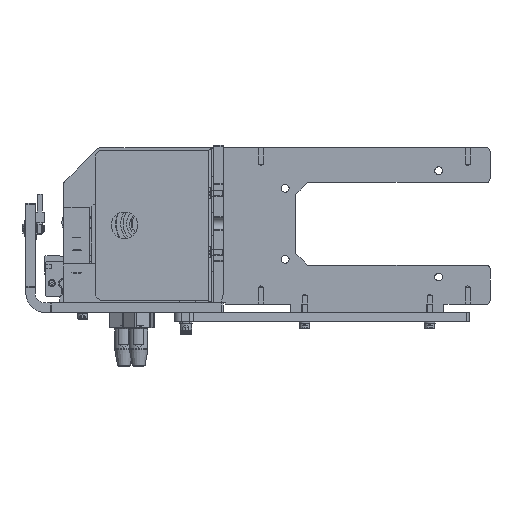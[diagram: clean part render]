
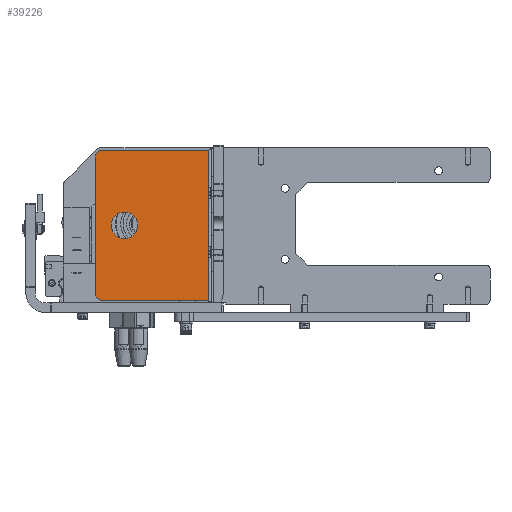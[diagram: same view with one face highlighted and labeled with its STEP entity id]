
A CAD part, left-side view. The second image highlights one B-rep face of the part: STEP entity #39226.
In plain terms, the highlighted planar face has unit normal (-1, 0, 0) as drawn and (1, 0, 0) by its records, which use the part's own axes.
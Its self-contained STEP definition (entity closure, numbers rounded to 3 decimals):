
#2920=CIRCLE('',#42482,6.);
#2921=CIRCLE('',#42484,6.);
#2922=CIRCLE('',#42485,11.25);
#3922=FACE_BOUND('',#10195,.T.);
#5025=PLANE('',#42483);
#7117=FACE_OUTER_BOUND('',#10194,.T.);
#10194=EDGE_LOOP('',(#34684,#34685,#34686,#34687,#34688,#34689));
#10195=EDGE_LOOP('',(#34690));
#13057=LINE('',#67625,#16253);
#13058=LINE('',#67629,#16254);
#13059=LINE('',#67631,#16255);
#13060=LINE('',#67632,#16256);
#16253=VECTOR('',#51409,115.5);
#16254=VECTOR('',#51412,90.);
#16255=VECTOR('',#51413,127.5);
#16256=VECTOR('',#51414,90.);
#20414=VERTEX_POINT('',#67618);
#20415=VERTEX_POINT('',#67620);
#20416=VERTEX_POINT('',#67624);
#20417=VERTEX_POINT('',#67626);
#20418=VERTEX_POINT('',#67628);
#20419=VERTEX_POINT('',#67630);
#20420=VERTEX_POINT('',#67633);
#25250=EDGE_CURVE('',#20414,#20415,#2920,.T.);
#25252=EDGE_CURVE('',#20414,#20416,#13057,.T.);
#25253=EDGE_CURVE('',#20417,#20416,#2921,.T.);
#25254=EDGE_CURVE('',#20418,#20417,#13058,.T.);
#25255=EDGE_CURVE('',#20418,#20419,#13059,.T.);
#25256=EDGE_CURVE('',#20419,#20415,#13060,.T.);
#25257=EDGE_CURVE('',#20420,#20420,#2922,.T.);
#34684=ORIENTED_EDGE('',*,*,#25250,.F.);
#34685=ORIENTED_EDGE('',*,*,#25252,.T.);
#34686=ORIENTED_EDGE('',*,*,#25253,.F.);
#34687=ORIENTED_EDGE('',*,*,#25254,.F.);
#34688=ORIENTED_EDGE('',*,*,#25255,.T.);
#34689=ORIENTED_EDGE('',*,*,#25256,.T.);
#34690=ORIENTED_EDGE('',*,*,#25257,.T.);
#39226=ADVANCED_FACE('',(#7117,#3922),#5025,.T.);
#42482=AXIS2_PLACEMENT_3D('',#67621,#51404,#51405);
#42483=AXIS2_PLACEMENT_3D('',#67623,#51407,#51408);
#42484=AXIS2_PLACEMENT_3D('',#67627,#51410,#51411);
#42485=AXIS2_PLACEMENT_3D('',#67634,#51415,#51416);
#51404=DIRECTION('center_axis',(-1.,0.,0.));
#51405=DIRECTION('ref_axis',(0.,-0.707,-0.707));
#51407=DIRECTION('center_axis',(1.,0.,0.));
#51408=DIRECTION('ref_axis',(0.,0.,-1.));
#51409=DIRECTION('',(0.,1.,0.));
#51410=DIRECTION('center_axis',(-1.,0.,0.));
#51411=DIRECTION('ref_axis',(0.,0.707,-0.707));
#51412=DIRECTION('',(0.,0.,-1.));
#51413=DIRECTION('',(0.,-1.,0.));
#51414=DIRECTION('',(0.,0.,-1.));
#51415=DIRECTION('center_axis',(-1.,0.,0.));
#51416=DIRECTION('ref_axis',(0.,0.,
-1.));
#67618=CARTESIAN_POINT('',(-1.,9.,-100.));
#67620=CARTESIAN_POINT('',(-1.,3.,-94.));
#67621=CARTESIAN_POINT('Origin',(-1.,9.,-94.));
#67623=CARTESIAN_POINT('Origin',(-1.,66.75,-49.214));
#67624=CARTESIAN_POINT('',(-1.,124.5,-100.));
#67625=CARTESIAN_POINT('',(-1.,3.,-100.));
#67626=CARTESIAN_POINT('',(-1.,130.5,-94.));
#67627=CARTESIAN_POINT('Origin',(-1.,124.5,-94.));
#67628=CARTESIAN_POINT('',(-1.,130.5,-4.));
#67629=CARTESIAN_POINT('',(-1.,130.5,-4.));
#67630=CARTESIAN_POINT('',(-1.,3.,-4.));
#67631=CARTESIAN_POINT('',(-1.,66.75,-4.));
#67632=CARTESIAN_POINT('',(-1.,3.,-4.));
#67633=CARTESIAN_POINT('',(-1.,66.75,-86.75));
#67634=CARTESIAN_POINT('Origin',(-1.,66.75,-75.5));
